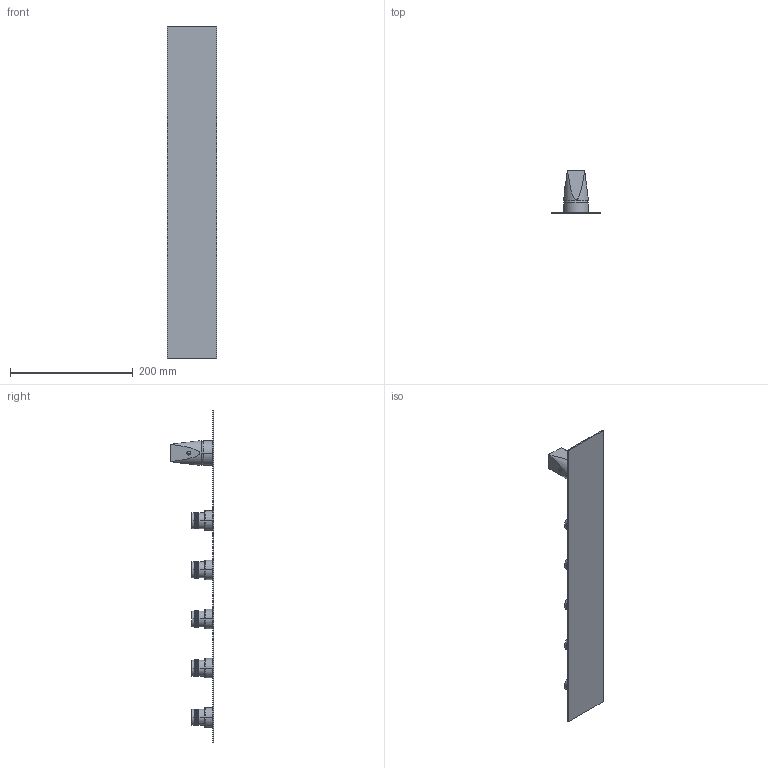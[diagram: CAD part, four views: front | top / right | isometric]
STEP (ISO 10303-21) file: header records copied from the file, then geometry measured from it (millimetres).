
FILE_DESCRIPTION((''),'2;1');
FILE_NAME('49000V521_SW0001','2023-09-21T10:32:59',('carloff'),(''),'CREO PARAMETRIC BY PTC INC, 2022014','CREO PARAMETRIC BY PTC INC, 2022014','');
FILE_SCHEMA(('CONFIG_CONTROL_DESIGN'));
Products named in the file (1): 49000V521_SW0001
Bounding box: 80 x 70.7 x 540 mm (x, y, z)
Volume: 271242.9 mm3; surface area: 113690.1 mm2
Topology: 1 solids, 1 shells, 8223 faces, 20495 edges, 13546 vertices
Faces by surface type: bspline 6402, cylinder 1748, plane 34, torus 24, sphere 12, cone 3
Entity records: 348941 total; most frequent: CARTESIAN_POINT 196729, ORIENTED_EDGE 40966, EDGE_CURVE 20483, VERTEX_POINT 13546, B_SPLINE_CURVE_WITH_KNOTS 12972, DIRECTION 11894, EDGE_LOOP 9509, FACE_OUTER_BOUND 8223
